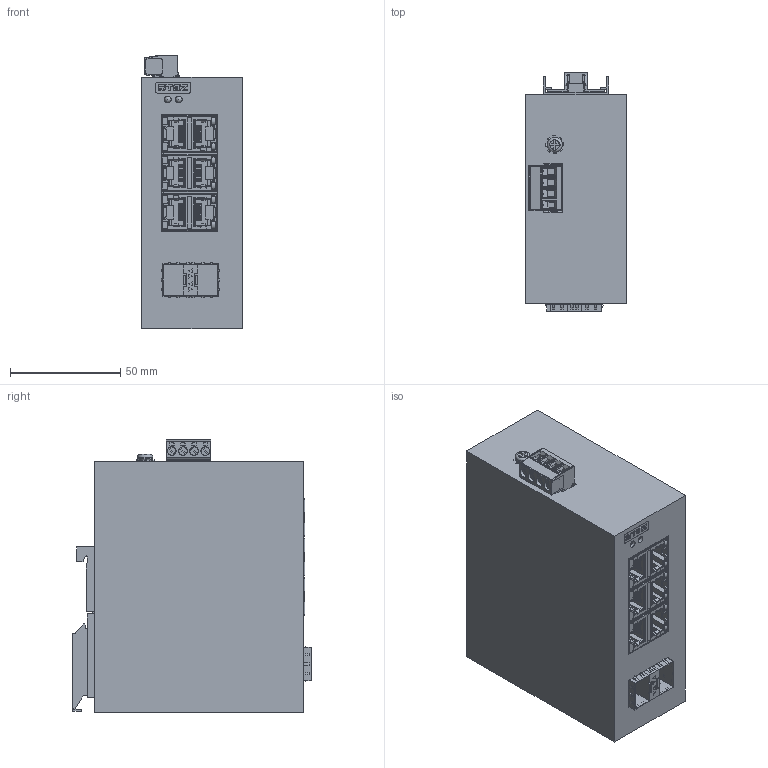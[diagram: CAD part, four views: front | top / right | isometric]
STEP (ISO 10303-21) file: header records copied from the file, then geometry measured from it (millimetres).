
FILE_DESCRIPTION(('TFLEX Exchange Step'),'2;1');
FILE_NAME('70310006_STEZ1006-2SFP-T.stp', '2025-08-26T13:33:16+03:00',('YLedovskikh'),('Unknown organisation'),'TFLEX Exchange 2023.2','T-FLEX CAD','Unknown authorisation');
FILE_SCHEMA( ('AUTOMOTIVE_DESIGN { 1 0 10303 214 1 1 1 1 }') );
Length unit declared in the file: millimetre
Products named in the file (1): STEZ1006-2SFP-T:1
Bounding box: 45.6 x 108.38 x 124.5 mm (x, y, z)
Volume: 484146.5 mm3; surface area: 82420.1 mm2
Topology: 3 solids, 32 shells, 7002 faces, 20434 edges, 13363 vertices
Faces by surface type: plane 4985, cylinder 1725, bspline 207, torus 33, cone 28, extrusion 16, sphere 8
Full cylindrical faces by diameter (mm): 0.5 x1, 1.3 x4, 1.45 x12, 2.5 x2, 3 x6, 3.1 x2, 3.821 x4, 4 x5, 4.4 x1, 6.8 x1
Entity records: 233533 total; most frequent: CARTESIAN_POINT 46303, ORIENTED_EDGE 40848, DIRECTION 36953, EDGE_CURVE 20424, VECTOR 16131, LINE 16115, VERTEX_POINT 13359, AXIS2_PLACEMENT_3D 10411
